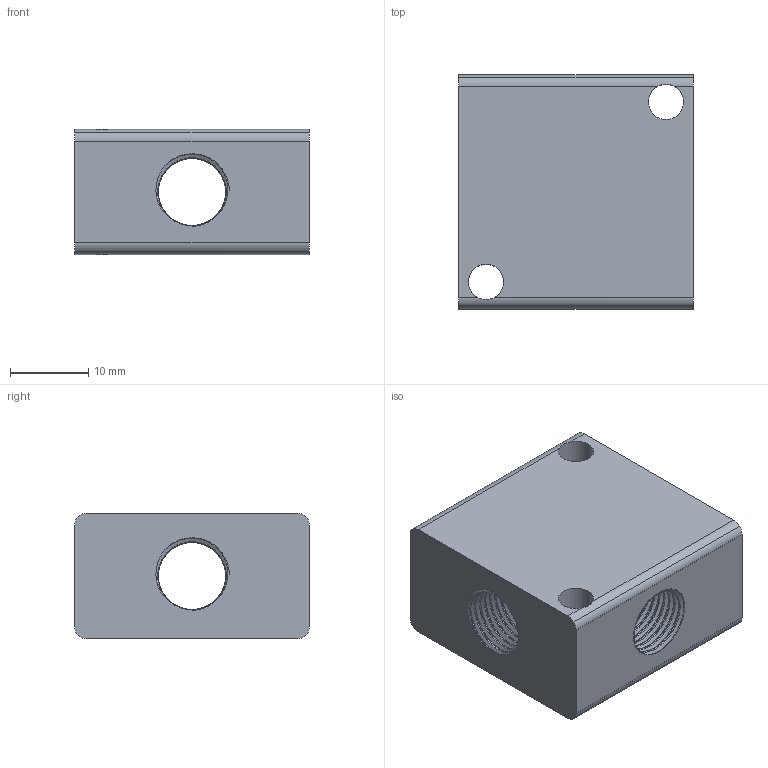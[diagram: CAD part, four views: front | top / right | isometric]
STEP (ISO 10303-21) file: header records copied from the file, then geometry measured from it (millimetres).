
FILE_DESCRIPTION((''),'2;1');
FILE_NAME('AU_018_1.stp','2007-12-02T07:07:56',('BP'),('AZ PNEUMATICA S.r.l.'),'Mechanical Desktop 2006','Mechanical Desktop 2006','Via Marco Biagi 6, 20020 Misinto (MI) Italia, azpneu@tin.it');
FILE_SCHEMA(('CONFIG_CONTROL_DESIGN'));
Length unit declared in the file: millimetre
Products named in the file (2): AU_018_1; PART1
Assembly tree (1 placements, depth 2):
  AU_018_1
    PART1
Bounding box: 30 x 30 x 16 mm (x, y, z)
Volume: 10548.9 mm3; surface area: 5736.1 mm2
Topology: 1 solids, 1 shells, 114 faces, 336 edges, 222 vertices
Faces by surface type: cylinder 84, bspline 20, plane 10
Entity records: 24293 total; most frequent: CARTESIAN_POINT 21510, ORIENTED_EDGE 672, DIRECTION 392, EDGE_CURVE 336, VERTEX_POINT 222, B_SPLINE_CURVE_WITH_KNOTS 188, AXIS2_PLACEMENT_3D 148, EDGE_LOOP 122
